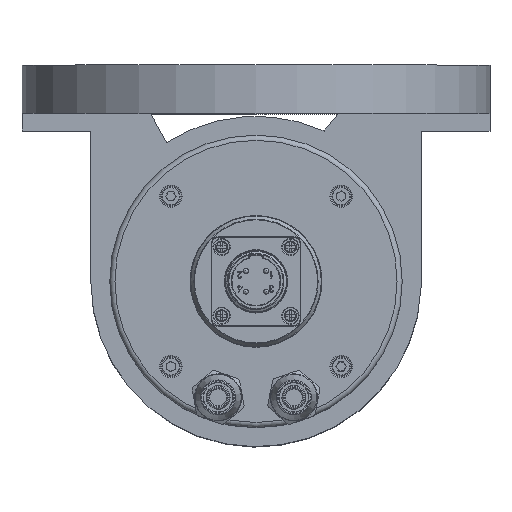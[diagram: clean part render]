
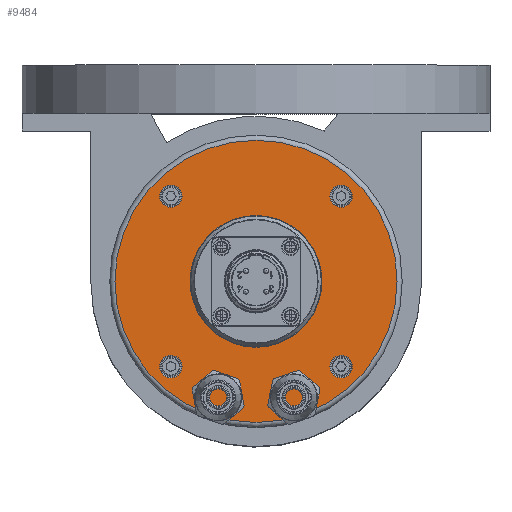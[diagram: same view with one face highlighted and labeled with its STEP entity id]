
A CAD part, top view. The second image highlights one B-rep face of the part: STEP entity #9484.
In plain terms, the highlighted planar face has unit normal (0, 0, 1) as drawn and (-1, 0, 0) by its records, which use the part's own axes.
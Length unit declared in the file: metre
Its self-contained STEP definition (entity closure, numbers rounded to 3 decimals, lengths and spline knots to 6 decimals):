
#833=PLANE('',#10828);
#4120=ORIENTED_EDGE('',*,*,#5577,.T.);
#4121=ORIENTED_EDGE('',*,*,#5572,.F.);
#4122=ORIENTED_EDGE('',*,*,#5561,.F.);
#4123=ORIENTED_EDGE('',*,*,#5563,.F.);
#4124=ORIENTED_EDGE('',*,*,#5565,.F.);
#4125=ORIENTED_EDGE('',*,*,#5567,.F.);
#5561=EDGE_CURVE('',#6459,#6459,#6882,.T.);
#5563=EDGE_CURVE('',#6461,#6461,#6884,.T.);
#5565=EDGE_CURVE('',#6463,#6463,#6886,.T.);
#5567=EDGE_CURVE('',#6465,#6465,#6888,.T.);
#5572=EDGE_CURVE('',#6470,#6470,#6893,.T.);
#5577=EDGE_CURVE('',#6475,#6475,#6898,.T.);
#6459=VERTEX_POINT('',#19159);
#6461=VERTEX_POINT('',#19164);
#6463=VERTEX_POINT('',#19169);
#6465=VERTEX_POINT('',#19174);
#6470=VERTEX_POINT('',#19189);
#6475=VERTEX_POINT('',#19201);
#6882=CIRCLE('',#10796,0.00325);
#6884=CIRCLE('',#10799,0.00325);
#6886=CIRCLE('',#10802,0.00325);
#6888=CIRCLE('',#10805,0.00325);
#6893=CIRCLE('',#10815,0.019154);
#6898=CIRCLE('',#10822,0.041);
#7676=EDGE_LOOP('',(#4120));
#7677=EDGE_LOOP('',(#4121));
#7678=EDGE_LOOP('',(#4122));
#7679=EDGE_LOOP('',(#4123));
#7680=EDGE_LOOP('',(#4124));
#7681=EDGE_LOOP('',(#4125));
#8545=FACE_BOUND('',#7676,.T.);
#8546=FACE_BOUND('',#7677,.T.);
#8547=FACE_BOUND('',#7678,.T.);
#8548=FACE_BOUND('',#7679,.T.);
#8549=FACE_BOUND('',#7680,.T.);
#8550=FACE_BOUND('',#7681,.T.);
#9484=ADVANCED_FACE('',(#8545,#8546,#8547,#8548,#8549,#8550),#833,.T.);
#10796=AXIS2_PLACEMENT_3D('',#19158,#13300,#13301);
#10799=AXIS2_PLACEMENT_3D('',#19163,#13306,#13307);
#10802=AXIS2_PLACEMENT_3D('',#19168,#13312,#13313);
#10805=AXIS2_PLACEMENT_3D('',#19173,#13318,#13319);
#10815=AXIS2_PLACEMENT_3D('',#19188,#13338,#13339);
#10822=AXIS2_PLACEMENT_3D('',#19200,#13352,#13353);
#10828=AXIS2_PLACEMENT_3D('',#19209,#13364,#13365);
#13300=DIRECTION('',(-1.,0.,0.));
#13301=DIRECTION('',(0.,-1.,0.));
#13306=DIRECTION('',(-1.,0.,0.));
#13307=DIRECTION('',(0.,-1.,0.));
#13312=DIRECTION('',(-1.,0.,0.));
#13313=DIRECTION('',(0.,-1.,0.));
#13318=DIRECTION('',(-1.,0.,0.));
#13319=DIRECTION('',(0.,-1.,0.));
#13338=DIRECTION('',(-1.,0.,0.));
#13339=DIRECTION('',(0.,-1.,0.));
#13352=DIRECTION('',(-1.,0.,0.));
#13353=DIRECTION('',(0.,-1.,0.));
#13364=DIRECTION('',(-1.,0.,0.));
#13365=DIRECTION('',(0.,-1.,0.));
#19158=CARTESIAN_POINT('',(-0.267,-0.024749,0.024749));
#19159=CARTESIAN_POINT('',(-0.267,-0.027999,0.024749));
#19163=CARTESIAN_POINT('',(-0.267,0.024749,0.024749));
#19164=CARTESIAN_POINT('',(-0.267,0.021499,0.024749));
#19168=CARTESIAN_POINT('',(-0.267,0.024749,-0.024749));
#19169=CARTESIAN_POINT('',(-0.267,0.021499,-0.024749));
#19173=CARTESIAN_POINT('',(-0.267,-0.024749,-0.024749));
#19174=CARTESIAN_POINT('',(-0.267,-0.027999,-0.024749));
#19188=CARTESIAN_POINT('',(-0.267,0.,0.));
#19189=CARTESIAN_POINT('',(-0.267,-0.019154,0.));
#19200=CARTESIAN_POINT('',(-0.267,0.,0.));
#19201=CARTESIAN_POINT('',(-0.267,-0.041,0.));
#19209=CARTESIAN_POINT('',(-0.267,0.,0.));
